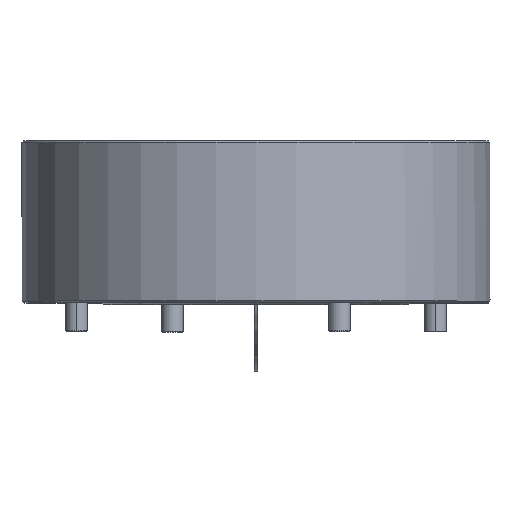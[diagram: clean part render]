
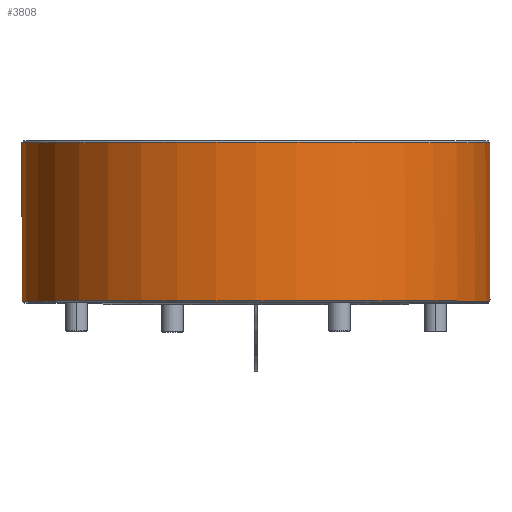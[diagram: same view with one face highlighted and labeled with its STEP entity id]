
A CAD part, top view. The second image highlights one B-rep face of the part: STEP entity #3808.
In plain terms, the highlighted cylindrical face has radius 65 mm (diameter 130 mm), a partial arc.
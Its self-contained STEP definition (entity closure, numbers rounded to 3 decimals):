
#12 = DIRECTION ( 'NONE',  ( 0., 1., 0. ) ) ;
#136 = AXIS2_PLACEMENT_3D ( 'NONE', #1321, #7607, #2092 ) ;
#249 = VECTOR ( 'NONE', #4012, 1000. ) ;
#504 = CARTESIAN_POINT ( 'NONE',  ( 25., 44.5, -60. ) ) ;
#669 = FACE_OUTER_BOUND ( 'NONE', #2509, .T. ) ;
#726 = CARTESIAN_POINT ( 'NONE',  ( 0., 0.5, 0. ) ) ;
#858 = CARTESIAN_POINT ( 'NONE',  ( 0., 0.5, 65. ) ) ;
#889 = VECTOR ( 'NONE', #2230, 1000. ) ;
#1158 = DIRECTION ( 'NONE',  ( 0., 1., 0. ) ) ;
#1218 = AXIS2_PLACEMENT_3D ( 'NONE', #3024, #9428, #4668 ) ;
#1250 = EDGE_CURVE ( 'NONE', #9454, #6788, #8668, .T. ) ;
#1321 = CARTESIAN_POINT ( 'NONE',  ( 0., 0.5, 0. ) ) ;
#1455 = CIRCLE ( 'NONE', #9338, 65. ) ;
#1515 = CARTESIAN_POINT ( 'NONE',  ( 64.992, 0.5, -1. ) ) ;
#2032 = VERTEX_POINT ( 'NONE', #6055 ) ;
#2081 = ORIENTED_EDGE ( 'NONE', *, *, #6472, .T. ) ;
#2092 = DIRECTION ( 'NONE',  ( 0., 0., 1. ) ) ;
#2193 = LINE ( 'NONE', #3546, #6132 ) ;
#2230 = DIRECTION ( 'NONE',  ( 0., 1., 0. ) ) ;
#2279 = ORIENTED_EDGE ( 'NONE', *, *, #4412, .T. ) ;
#2308 = CARTESIAN_POINT ( 'NONE',  ( 0., 44.5, 0. ) ) ;
#2423 = ORIENTED_EDGE ( 'NONE', *, *, #4170, .T. ) ;
#2509 = EDGE_LOOP ( 'NONE', ( #5214, #9391, #4454, #8432, #2081, #3281, #2423, #3528, #2279 ) ) ;
#2596 = CARTESIAN_POINT ( 'NONE',  ( -25., 0.5, -60. ) ) ;
#3024 = CARTESIAN_POINT ( 'NONE',  ( 0., 45., 0. ) ) ;
#3041 = DIRECTION ( 'NONE',  ( 0., 0., 1. ) ) ;
#3206 = CARTESIAN_POINT ( 'NONE',  ( 64.992, 45., 1. ) ) ;
#3235 = AXIS2_PLACEMENT_3D ( 'NONE', #726, #12, #9546 ) ;
#3281 = ORIENTED_EDGE ( 'NONE', *, *, #5544, .F. ) ;
#3339 = DIRECTION ( 'NONE',  ( 0., -1., 0. ) ) ;
#3528 = ORIENTED_EDGE ( 'NONE', *, *, #4413, .T. ) ;
#3546 = CARTESIAN_POINT ( 'NONE',  ( -25., 0., -60. ) ) ;
#3564 = AXIS2_PLACEMENT_3D ( 'NONE', #8060, #3339, #8872 ) ;
#3584 = CYLINDRICAL_SURFACE ( 'NONE', #1218, 65. ) ;
#3688 = CARTESIAN_POINT ( 'NONE',  ( 64.992, 1., -1. ) ) ;
#3808 = ADVANCED_FACE ( 'NONE', ( #669 ), #3584, .T. ) ;
#4012 = DIRECTION ( 'NONE',  ( 0., 1., 0. ) ) ;
#4170 = EDGE_CURVE ( 'NONE', #9913, #8326, #8522, .T. ) ;
#4413 = EDGE_CURVE ( 'NONE', #8326, #5939, #7771, .T. ) ;
#4412 = EDGE_CURVE ( 'NONE', #5939, #6580, #8646, .T. ) ;
#4454 = ORIENTED_EDGE ( 'NONE', *, *, #8625, .T. ) ;
#4668 = DIRECTION ( 'NONE',  ( 0., 0., -1. ) ) ;
#5214 = ORIENTED_EDGE ( 'NONE', *, *, #6112, .F. ) ;
#5325 = AXIS2_PLACEMENT_3D ( 'NONE', #10039, #6930, #3041 ) ;
#5544 = EDGE_CURVE ( 'NONE', #9913, #2032, #2193, .T. ) ;
#5909 = CARTESIAN_POINT ( 'NONE',  ( 25., 0.5, -60. ) ) ;
#5939 = VERTEX_POINT ( 'NONE', #9381 ) ;
#6055 = CARTESIAN_POINT ( 'NONE',  ( -25., 44.5, -60. ) ) ;
#6112 = EDGE_CURVE ( 'NONE', #7464, #6580, #10114, .T. ) ;
#6132 = VECTOR ( 'NONE', #1158, 1000. ) ;
#6199 = DIRECTION ( 'NONE',  ( 0., 0., 1. ) ) ;
#6472 = EDGE_CURVE ( 'NONE', #6788, #2032, #1455, .T. ) ;
#6580 = VERTEX_POINT ( 'NONE', #7991 ) ;
#6788 = VERTEX_POINT ( 'NONE', #504 ) ;
#6930 = DIRECTION ( 'NONE',  ( 0., 1., 0. ) ) ;
#7464 = VERTEX_POINT ( 'NONE', #3688 ) ;
#7573 = VERTEX_POINT ( 'NONE', #1515 ) ;
#7607 = DIRECTION ( 'NONE',  ( 0., 1., 0. ) ) ;
#7682 = CARTESIAN_POINT ( 'NONE',  ( 25., 0., -60. ) ) ;
#7771 = CIRCLE ( 'NONE', #3235, 65. ) ;
#7991 = CARTESIAN_POINT ( 'NONE',  ( 64.992, 1., 1. ) ) ;
#8014 = DIRECTION ( 'NONE',  ( 0., -1., 0. ) ) ;
#8060 = CARTESIAN_POINT ( 'NONE',  ( 0., 1., 0. ) ) ;
#8326 = VERTEX_POINT ( 'NONE', #858 ) ;
#8432 = ORIENTED_EDGE ( 'NONE', *, *, #1250, .T. ) ;
#8434 = CIRCLE ( 'NONE', #5325, 65. ) ;
#8522 = CIRCLE ( 'NONE', #136, 65. ) ;
#8625 = EDGE_CURVE ( 'NONE', #7573, #9454, #8434, .T. ) ;
#8646 = LINE ( 'NONE', #3206, #249 ) ;
#8668 = LINE ( 'NONE', #7682, #889 ) ;
#8872 = DIRECTION ( 'NONE',  ( 0., 0., -1. ) ) ;
#9164 = LINE ( 'NONE', #10238, #9279 ) ;
#9279 = VECTOR ( 'NONE', #8014, 1000. ) ;
#9338 = AXIS2_PLACEMENT_3D ( 'NONE', #2308, #9403, #6199 ) ;
#9381 = CARTESIAN_POINT ( 'NONE',  ( 64.992, 0.5, 1. ) ) ;
#9391 = ORIENTED_EDGE ( 'NONE', *, *, #9847, .T. ) ;
#9403 = DIRECTION ( 'NONE',  ( 0., -1., 0. ) ) ;
#9428 = DIRECTION ( 'NONE',  ( 0., -1., 0. ) ) ;
#9454 = VERTEX_POINT ( 'NONE', #5909 ) ;
#9546 = DIRECTION ( 'NONE',  ( 0., 0., 1. ) ) ;
#9847 = EDGE_CURVE ( 'NONE', #7464, #7573, #9164, .T. ) ;
#9913 = VERTEX_POINT ( 'NONE', #2596 ) ;
#10039 = CARTESIAN_POINT ( 'NONE',  ( 0., 0.5, 0. ) ) ;
#10114 = CIRCLE ( 'NONE', #3564, 65. ) ;
#10238 = CARTESIAN_POINT ( 'NONE',  ( 64.992, 45., -1. ) ) ;
